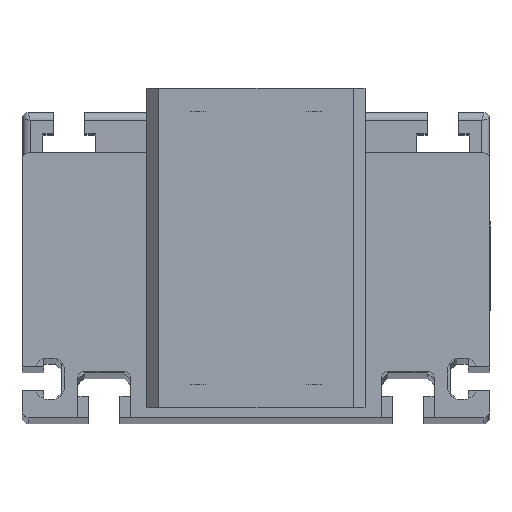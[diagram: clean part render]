
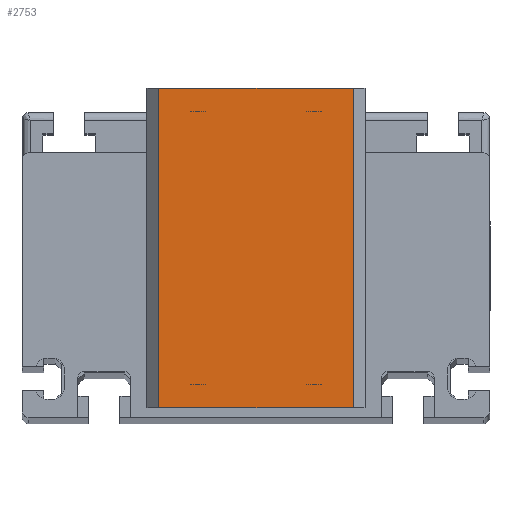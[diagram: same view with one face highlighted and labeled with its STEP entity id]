
A CAD part, top view. The second image highlights one B-rep face of the part: STEP entity #2753.
In plain terms, the highlighted planar face has unit normal (0, 0, 1).
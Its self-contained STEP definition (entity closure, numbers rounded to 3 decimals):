
#33 = CARTESIAN_POINT ( 'NONE',  ( 0., 82., 28. ) ) ;
#257 = DIRECTION ( 'NONE',  ( 1., 0., 0. ) ) ;
#365 = CARTESIAN_POINT ( 'NONE',  ( -25., 82., 28. ) ) ;
#465 = DIRECTION ( 'NONE',  ( 0., 1., 0. ) ) ;
#580 = VECTOR ( 'NONE', #465, 1000. ) ;
#1033 = LINE ( 'NONE', #2937, #6542 ) ;
#1527 = CARTESIAN_POINT ( 'NONE',  ( 25., 82., 28. ) ) ;
#1784 = CARTESIAN_POINT ( 'NONE',  ( 25., 82., 28. ) ) ;
#1902 = EDGE_CURVE ( 'NONE', #11840, #3974, #10233, .T. ) ;
#2753 = ADVANCED_FACE ( 'NONE', ( #9683 ), #4790, .F. ) ;
#2889 = DIRECTION ( 'NONE',  ( -1., 0., 0. ) ) ;
#2937 = CARTESIAN_POINT ( 'NONE',  ( 0., 82., 28. ) ) ;
#3721 = ORIENTED_EDGE ( 'NONE', *, *, #7898, .T. ) ;
#3723 = VECTOR ( 'NONE', #11502, 1000. ) ;
#3943 = EDGE_LOOP ( 'NONE', ( #10459, #3721, #9989, #6255 ) ) ;
#3974 = VERTEX_POINT ( 'NONE', #1784 ) ;
#4739 = CARTESIAN_POINT ( 'NONE',  ( -25., 0., 28. ) ) ;
#4790 = PLANE ( 'NONE',  #9306 ) ;
#5587 = LINE ( 'NONE', #8570, #3723 ) ;
#6255 = ORIENTED_EDGE ( 'NONE', *, *, #1902, .T. ) ;
#6542 = VECTOR ( 'NONE', #6905, 1000. ) ;
#6905 = DIRECTION ( 'NONE',  ( 1., 0., 0. ) ) ;
#6906 = VERTEX_POINT ( 'NONE', #4739 ) ;
#7067 = LINE ( 'NONE', #11850, #8772 ) ;
#7363 = EDGE_CURVE ( 'NONE', #6906, #11840, #7067, .T. ) ;
#7620 = DIRECTION ( 'NONE',  ( 0., 0., -1. ) ) ;
#7898 = EDGE_CURVE ( 'NONE', #8768, #6906, #5587, .T. ) ;
#8051 = EDGE_CURVE ( 'NONE', #8768, #3974, #1033, .T. ) ;
#8570 = CARTESIAN_POINT ( 'NONE',  ( -25., 82., 28. ) ) ;
#8768 = VERTEX_POINT ( 'NONE', #365 ) ;
#8772 = VECTOR ( 'NONE', #257, 1000. ) ;
#9306 = AXIS2_PLACEMENT_3D ( 'NONE', #33, #7620, #2889 ) ;
#9589 = CARTESIAN_POINT ( 'NONE',  ( 25., 0., 28. ) ) ;
#9683 = FACE_OUTER_BOUND ( 'NONE', #3943, .T. ) ;
#9989 = ORIENTED_EDGE ( 'NONE', *, *, #7363, .T. ) ;
#10233 = LINE ( 'NONE', #1527, #580 ) ;
#10459 = ORIENTED_EDGE ( 'NONE', *, *, #8051, .F. ) ;
#11502 = DIRECTION ( 'NONE',  ( 0., -1., 0. ) ) ;
#11840 = VERTEX_POINT ( 'NONE', #9589 ) ;
#11850 = CARTESIAN_POINT ( 'NONE',  ( 0., 0., 28. ) ) ;
